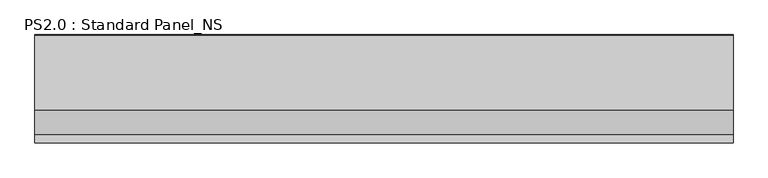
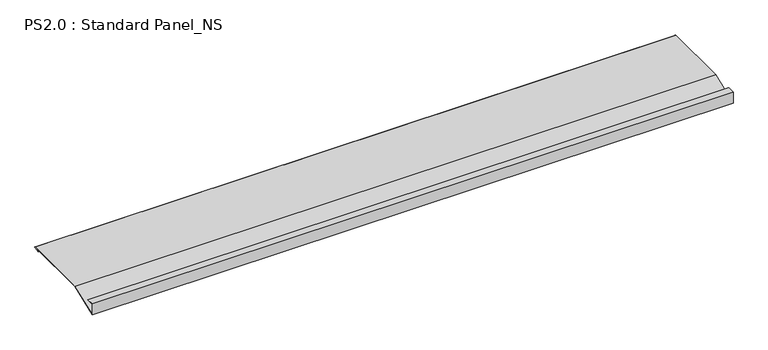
"""IFC4 building model written with IfcOpenShell, lengths in millimetres: proxy geometry, PS2.0 : Standard Panel_NS."""

from ifc_helpers import new_model, si_unit, point, frame, frame_2d, origin, place, context, project, spatial, polyline, circle_curve, trimmed, segment, composite_curve, outline, extrude, source, transform, mapped, element, save


def ps2_0_standard_panel_ns_643a3163(model_context):
    return source(origin(), model_context, "Body", "SweptSolid", [
        extrude(outline(composite_curve([segment(polyline([(0.0, 0.0), (25.0, 0.0), (25.0, -1.0), (1.0, -1.0), (1.0, -36.5502337), (99.8164044, 1.0), (325.0510156, 1.0)]), True, "CONTINUOUS"), segment(trimmed(circle_curve(frame_2d((324.3094696, -0.9153551)), 2.0538928), [point((325.0510156, 1.0))], [point((325.1748462, -2.778041))], False, "CARTESIAN"), True, "CONTINUOUS"), segment(polyline([(325.1748462, -2.778041), (308.7874714, -5.923107), (308.5989911, -4.94103), (324.8448691, -1.8231201)]), True, "CONTINUOUS"), segment(trimmed(circle_curve(frame_2d((324.3094696, -0.9153551)), 1.0538928), [point((324.8448691, -1.8231201))], [point((324.8317866, 0.0))], True, "CARTESIAN"), True, "CONTINUOUS"), segment(polyline([(324.8317866, 0.0), (100.0, 0.0), (0.0, -38.0), (0.0, 0.0)]), True, "CONTINUOUS")], self_intersect=False)), frame((0.0, 0.0, 0.0), z_axis=(1.0, 0.0, 0.0), x_axis=(0.0, 1.0, 0.0)), (0.0, 0.0, 1.0), 2100.0),
    ])


if __name__ == "__main__":
    model = new_model("IFC4")
    model_context = context("Model", 3, world=origin())
    ifc_project = project(units=[si_unit("LENGTHUNIT", "METRE", prefix="MILLI")], contexts=[model_context])
    site = spatial("IfcSite", under=ifc_project)
    building = spatial("IfcBuilding", under=site)
    placement = place(None, origin())
    ps2_0_standard_panel_ns_shape = ps2_0_standard_panel_ns_643a3163(model_context)
    element("IfcBuildingElementProxy", 1, Name="PS2.0 : Standard Panel_NS", ObjectType="PS2.0 : Standard Panel_NS", at=placement, inside=building, context=model_context, shape_type="MappedRepresentation", body=[
        mapped(ps2_0_standard_panel_ns_shape, transform((0.0, 0.0, 0.0), x_axis=(1.0, 0.0, 0.0), y_axis=(0.0, 1.0, 0.0), z_axis=(0.0, 0.0, 1.0))),
    ])
    save(model, "model.ifc")
